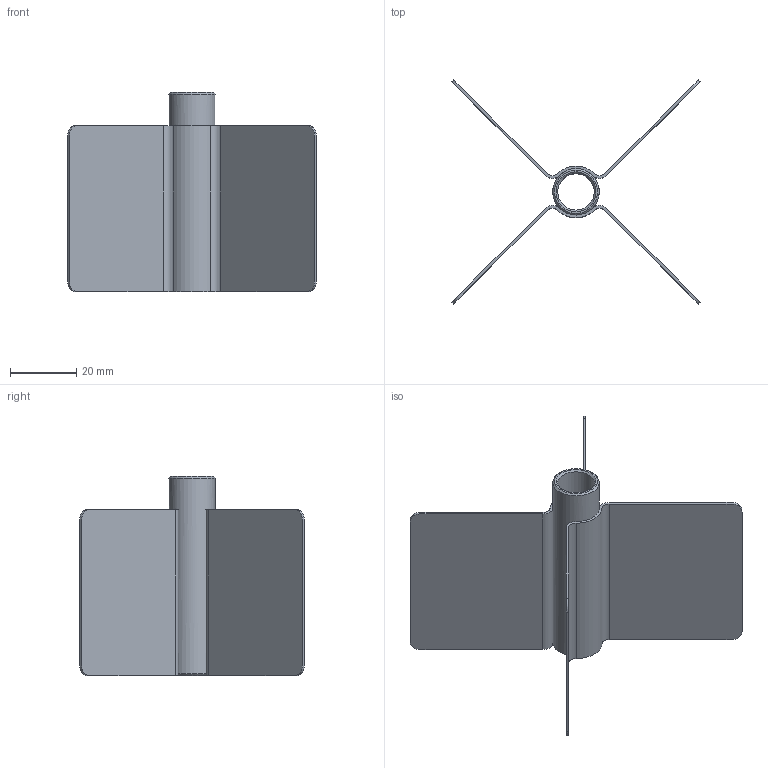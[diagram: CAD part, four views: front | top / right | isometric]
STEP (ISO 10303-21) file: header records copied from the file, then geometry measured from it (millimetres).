
FILE_DESCRIPTION(/* description */ (''),/* implementation_level */ '2;1');
FILE_NAME(/* name */ 'AC3-INOX.stp',/* time_stamp */ '2024-03-22T10:31:08+01:00',/* author */ ('filippo.guidetti'),/* organization */ (''),/* preprocessor_version */ 'ST-DEVELOPER v20',/* originating_system */ 'Autodesk Inventor 2024',/* authorisation */ '');
FILE_SCHEMA (('AUTOMOTIVE_DESIGN { 1 0 10303 214 3 1 1 }'));
Length unit declared in the file: millimetre
Products named in the file (1): AC3-INOX
Bounding box: 74.95 x 67.6 x 60 mm (x, y, z)
Volume: 11440.2 mm3; surface area: 22982.9 mm2
Topology: 1 solids, 1 shells, 49 faces, 139 edges, 92 vertices
Faces by surface type: cylinder 23, plane 22, cone 4
Full cylindrical faces by diameter (mm): 5.5 x1, 11 x1, 14 x1
Entity records: 1769 total; most frequent: CARTESIAN_POINT 326, DIRECTION 295, ORIENTED_EDGE 278, EDGE_CURVE 139, AXIS2_PLACEMENT_3D 111, VERTEX_POINT 92, LINE 73, VECTOR 73
